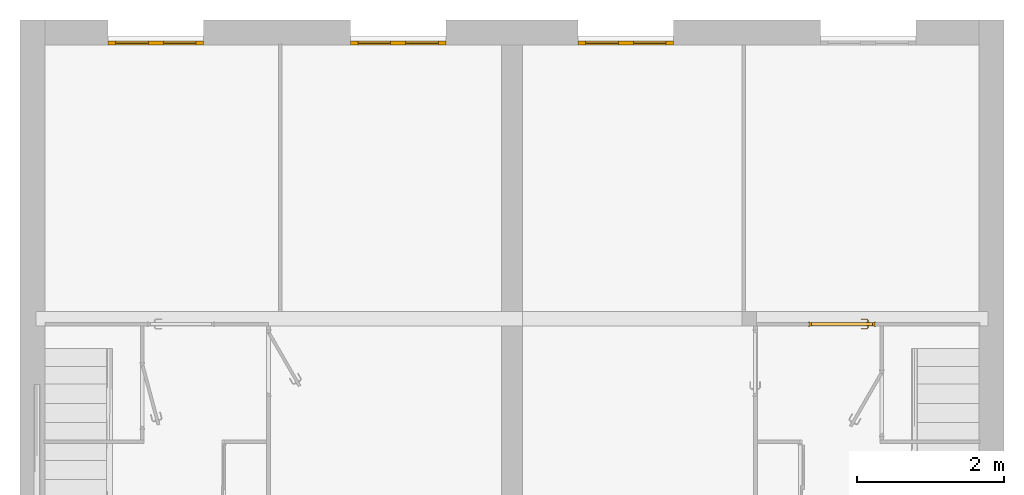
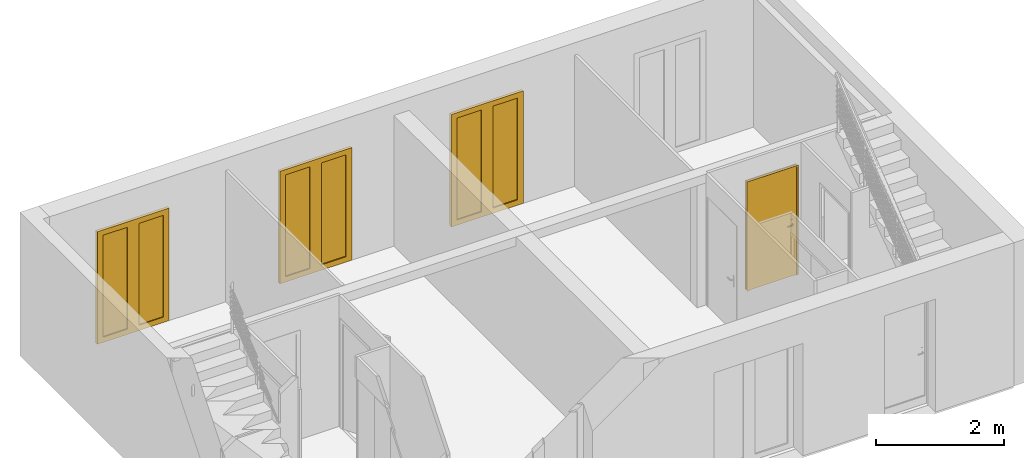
# One storey, part 12 of 13: 4 doors.
"""IFC2X3 building model written with IfcOpenShell, lengths in millimetres."""

from ifc_helpers import new_model, entity, si_unit, converted_unit, direction, frame, origin, origin_with_axes, place, context, project, spatial, faceted_brep, element, save


model = new_model("IFC2X3")

# Units and contexts
model_context = context("Model", 3, precision=1e-05, world=origin(), true_north=direction((0.0, 1.0, 0.0)))
ifc_project = project(units=[si_unit("LENGTHUNIT", "METRE", prefix="MILLI"), si_unit("AREAUNIT", "SQUARE_METRE"), si_unit("VOLUMEUNIT", "CUBIC_METRE"), converted_unit("PLANEANGLEUNIT", "DEGREE", entity("IfcPlaneAngleMeasure", 0.01745), si_unit("PLANEANGLEUNIT", "RADIAN"), dimensions=[0, 0, 0, 0, 0, 0, 0]), si_unit("SOLIDANGLEUNIT", "STERADIAN"), si_unit("MASSUNIT", "GRAM"), si_unit("TIMEUNIT", "SECOND"), si_unit("THERMODYNAMICTEMPERATUREUNIT", "DEGREE_CELSIUS"), si_unit("LUMINOUSINTENSITYUNIT", "LUMEN")], contexts=[model_context])

# Site, building, storey
placement = place(None, origin_with_axes())
site_placement = place(placement, frame((11636.08881703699, 2815.7442167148, 4.768371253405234e-06), z_axis=(0.0, 0.0, 1.0), x_axis=(1.0, 0.0, 0.0)))
site = spatial("IfcSite", under=ifc_project, at=site_placement, Name="Surface", CompositionType="ELEMENT")
building_placement = place(placement, origin_with_axes())
building = spatial("IfcBuilding", under=site, at=building_placement, Name="Default Building", CompositionType="ELEMENT")
storey_placement = place(building_placement, origin_with_axes())
storey = spatial("IfcBuildingStorey", under=building, at=storey_placement, Name="Rez de chaussée", CompositionType="ELEMENT", Elevation=0.0)

# Doors
door_1_placement = place(storey_placement, frame((11636.08881703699, 2815.7442167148, 4.768371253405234e-06), z_axis=(0.0, 0.0, 1.0), x_axis=(1.0, 0.0, 0.0)))
element("IfcDoor", 1, at=door_1_placement, inside=storey, Name="IfcDoor - Int. Simple:PP (0.83m x 2.04m)", context=model_context, shape_type="Brep", body=[
    faceted_brep([(-6.088816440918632, 1569.255782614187, 4.291534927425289e-05), (23.91118475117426, 1564.255783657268, 4.291534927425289e-05), (-6.088816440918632, 1564.255783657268, 4.291534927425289e-05), (23.91118475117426, 1569.255782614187, 4.291534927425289e-05), (-876.0888212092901, 1569.255782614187, 4.291534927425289e-05), (-906.088822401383, 1564.255783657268, 4.291534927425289e-05), (-906.088822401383, 1569.255782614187, 4.291534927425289e-05), (-876.0888212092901, 1564.255783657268, 4.291534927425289e-05), (-6.088816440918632, 1569.255782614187, 2059.99998569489), (-876.0888212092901, 1564.255783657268, 2059.99998569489), (-876.0888212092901, 1569.255782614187, 2059.99998569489), (-6.088816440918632, 1564.255783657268, 2059.99998569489), (23.91118475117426, 1564.255783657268, 2089.999957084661), (-906.088822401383, 1569.255782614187, 2089.999957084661), (-906.088822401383, 1564.255783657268, 2089.999957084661), (23.91118475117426, 1569.255782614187, 2089.999957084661), (-6.088816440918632, 1514.25578291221, 2059.99998569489), (-876.0888212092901, 1509.255783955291, 2059.99998569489), (-876.0888212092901, 1514.25578291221, 2059.99998569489), (-6.088816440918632, 1509.255783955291, 2059.99998569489), (23.91118475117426, 1509.255783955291, 2089.999957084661), (-906.088822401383, 1514.25578291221, 2089.999957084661), (-906.088822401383, 1509.255783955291, 2089.999957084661), (23.91118475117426, 1514.25578291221, 2089.999957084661), (-906.088822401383, 1514.25578291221, 4.291534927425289e-05), (-906.088822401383, 1509.255783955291, 4.291534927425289e-05), (-876.0888212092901, 1509.255783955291, 4.291534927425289e-05), (-876.0888212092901, 1514.25578291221, 4.291534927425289e-05), (-6.088816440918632, 1514.25578291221, 4.291534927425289e-05), (-6.088816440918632, 1509.255783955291, 4.291534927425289e-05), (23.91118475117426, 1509.255783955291, 4.291534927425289e-05), (23.91118475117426, 1514.25578291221, 4.291534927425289e-05), (-26.08882716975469, 1564.255783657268, 2040.000004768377), (-856.0888104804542, 1524.255783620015, 2040.000004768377), (-856.0888104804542, 1564.255783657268, 2040.000004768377), (-26.08882716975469, 1524.255783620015, 2040.000004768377), (-41.08881286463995, 1524.255783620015, 2025.000019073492), (-841.0888247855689, 1514.25578291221, 2025.000019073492), (-841.0888247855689, 1524.255783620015, 2025.000019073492), (-41.08881286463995, 1514.25578291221, 2025.000019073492), (8.911169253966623, 1514.25578291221, 2074.999971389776), (-891.0888069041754, 1564.255783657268, 2074.999971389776), (-891.0888069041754, 1514.25578291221, 2074.999971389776), (8.911169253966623, 1564.255783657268, 2074.999971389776), (-856.0888104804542, 1524.255783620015, 4.291534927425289e-05), (-856.0888104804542, 1564.255783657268, 4.291534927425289e-05), (-841.0888247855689, 1514.25578291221, 4.291534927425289e-05), (-841.0888247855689, 1524.255783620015, 4.291534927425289e-05), (-891.0888069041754, 1514.25578291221, 4.291534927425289e-05), (-891.0888069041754, 1564.255783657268, 4.291534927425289e-05), (-26.08882716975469, 1564.255783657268, 4.291534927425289e-05), (8.911169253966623, 1564.255783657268, 4.291534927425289e-05), (-26.08882716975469, 1524.255783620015, 4.291534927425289e-05), (-41.08881286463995, 1524.255783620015, 4.291534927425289e-05), (-41.08881286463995, 1514.25578291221, 4.291534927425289e-05), (8.911169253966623, 1514.25578291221, 4.291534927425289e-05), (-26.08882716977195, 1524.255783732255, 2039.999980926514), (-26.08882716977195, 1564.255782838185, 1.907348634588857e-05), (-26.08882716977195, 1564.255782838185, 2039.999980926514), (-26.08882716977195, 1524.255783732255, 1.907348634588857e-05), (-856.0888104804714, 1564.255782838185, 1.907348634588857e-05), (-856.0888104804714, 1524.255783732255, 1.907348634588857e-05), (-856.0888104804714, 1564.255782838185, 2039.999980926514), (-856.0888104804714, 1524.255783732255, 2039.999980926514), (-100.2499128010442, 1477.260002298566, 992.2195583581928), (-144.0311635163, 1479.285301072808, 992.1213131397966), (-101.9277258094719, 1481.31059239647, 992.2195583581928), (-138.5340227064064, 1473.285296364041, 992.99999922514), (-186.1346012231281, 1481.31059239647, 992.2195583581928), (-144.854339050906, 1485.285298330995, 992.99999922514), (-186.1346012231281, 1477.260002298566, 992.2195583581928), (-186.1346012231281, 1485.285298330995, 992.99999922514), (-103.5741010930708, 1485.285298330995, 992.99999922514), (-98.60353751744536, 1473.285296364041, 992.99999922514), (-186.1346012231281, 1473.285296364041, 992.99999922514), (-138.5340245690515, 1473.285296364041, 1007.000001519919), (-186.1346012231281, 1473.285296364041, 1007.000001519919), (-98.60353751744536, 1473.285296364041, 1007.000001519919), (-186.1346012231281, 1477.260002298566, 1007.780442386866), (-144.0311635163, 1479.285301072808, 1007.878685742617), (-186.1346012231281, 1481.31059239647, 1007.780442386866), (-101.9277258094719, 1481.31059239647, 1007.780442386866), (-144.854352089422, 1485.285298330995, 1007.000001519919), (-100.2499128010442, 1477.260002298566, 1007.780442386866), (-186.1346012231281, 1485.285298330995, 1007.000001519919), (-103.5741010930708, 1485.285298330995, 1007.000001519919), (-92.08882062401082, 1496.770576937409, 992.99999922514), (-88.11411841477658, 1495.124203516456, 992.2195583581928), (-84.06352086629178, 1493.446392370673, 992.2195583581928), (-80.08881865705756, 1491.800015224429, 992.99999922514), (-80.08881865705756, 1491.800015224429, 1007.000001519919), (-84.06352086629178, 1493.446392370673, 1007.780442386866), (-88.11411841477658, 1495.124203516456, 1007.780442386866), (-92.08882062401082, 1496.770576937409, 1007.000001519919), (-92.08882062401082, 1519.255782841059, 992.99999922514), (-88.11411841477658, 1519.255782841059, 992.2195583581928), (-84.06352086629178, 1519.255782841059, 992.2195583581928), (-80.08881865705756, 1519.255782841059, 992.99999922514), (-80.08881865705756, 1519.255782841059, 1007.000001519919), (-84.06352086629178, 1519.255782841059, 1007.780442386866), (-88.11411841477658, 1519.255782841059, 1007.780442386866), (-92.08882062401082, 1519.255782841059, 1007.000001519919), (-186.1074587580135, 1615.283945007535, 1007.000001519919), (-138.3965194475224, 1615.283945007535, 992.99999922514), (-186.1074587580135, 1615.283945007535, 992.99999922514), (-98.46602960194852, 1615.283945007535, 992.99999922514), (-98.46602960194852, 1615.283945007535, 1007.000001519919), (-186.1074587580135, 1611.309239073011, 992.2195583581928), (-143.9488383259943, 1609.283947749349, 992.1213131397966), (-186.1074587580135, 1607.258648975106, 992.2195583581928), (-101.7902160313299, 1607.258648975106, 992.2195583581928), (-144.7720250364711, 1603.283943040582, 992.99999922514), (-100.1124048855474, 1611.309239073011, 992.2195583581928), (-186.1074587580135, 1603.283943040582, 992.99999922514), (-103.4365913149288, 1603.283943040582, 992.99999922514), (-144.7720250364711, 1603.283943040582, 1007.000001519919), (-103.4365913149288, 1603.283943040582, 1007.000001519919), (-186.1074587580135, 1603.283943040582, 1007.000001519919), (-100.1124048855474, 1611.309239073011, 1007.780442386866), (-143.9488383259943, 1609.283940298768, 1007.878685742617), (-101.7902160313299, 1607.258648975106, 1007.780442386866), (-138.3965157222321, 1615.283945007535, 1007.000001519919), (-186.1074587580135, 1607.258648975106, 1007.780442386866), (-186.1074587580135, 1611.309239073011, 1007.780442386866), (-80.08881865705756, 1596.906734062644, 1007.000001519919), (-80.08881865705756, 1596.906734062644, 992.99999922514), (-84.06352086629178, 1595.26036064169, 992.2195583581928), (-88.11411841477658, 1593.582545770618, 992.2195583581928), (-92.08882062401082, 1591.936172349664, 992.99999922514), (-92.08882062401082, 1591.936172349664, 1007.000001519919), (-88.11411841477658, 1593.582545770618, 1007.780442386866), (-84.06352086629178, 1595.26036064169, 1007.780442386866), (-80.08881865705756, 1569.255783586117, 1007.000001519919), (-80.08881865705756, 1569.255783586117, 992.99999922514), (-84.06352086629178, 1569.255783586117, 992.2195583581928), (-88.11411841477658, 1569.255783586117, 992.2195583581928), (-92.08882062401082, 1569.255783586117, 992.99999922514), (-92.08882062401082, 1569.255783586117, 1007.000001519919), (-88.11411841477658, 1569.255783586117, 1007.780442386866), (-84.06352086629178, 1569.255783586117, 1007.780442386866), (-106.0888191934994, 1524.255783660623, 1079.999996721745), (-106.0888191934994, 1519.255782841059, 870.0000032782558), (-106.0888191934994, 1519.255782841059, 1079.999996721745), (-106.0888191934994, 1524.255783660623, 870.0000032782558), (-96.44158019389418, 1519.255782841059, 866.0039812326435), (-96.44158019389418, 1524.255783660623, 866.0039812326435), (-86.08881964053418, 1519.255782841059, 864.6410167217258), (-86.08881964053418, 1524.255783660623, 864.6410167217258), (-75.73605536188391, 1524.255783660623, 866.0039812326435), (-75.73605536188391, 1519.255782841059, 866.0039812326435), (-66.08882008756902, 1519.255782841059, 870.0000032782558), (-66.08882008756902, 1524.255783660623, 870.0000032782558), (-66.08882008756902, 1519.255782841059, 1079.999996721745), (-66.08882008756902, 1524.255783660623, 1079.999996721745), (-75.73605536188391, 1519.255782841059, 1083.996018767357), (-75.73605536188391, 1524.255783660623, 1083.996018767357), (-86.08881964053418, 1519.255782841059, 1085.358983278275), (-86.08881964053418, 1524.255783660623, 1085.358983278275), (-96.44158019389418, 1524.255783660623, 1083.996018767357), (-96.44158019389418, 1519.255782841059, 1083.996018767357), (-66.08882008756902, 1569.255783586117, 870.0000032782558), (-66.08882008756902, 1564.255782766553, 1079.999996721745), (-66.08882008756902, 1564.255782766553, 870.0000032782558), (-66.08882008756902, 1569.255783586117, 1079.999996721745), (-75.73605536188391, 1564.255782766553, 1083.996018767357), (-75.73605536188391, 1569.255783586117, 1083.996018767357), (-86.08881964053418, 1564.255782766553, 1085.358983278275), (-86.08881964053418, 1569.255783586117, 1085.358983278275), (-96.44158019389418, 1569.255783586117, 1083.996018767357), (-96.44158019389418, 1564.255782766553, 1083.996018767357), (-106.0888191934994, 1564.255782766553, 1079.999996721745), (-106.0888191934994, 1569.255783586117, 1079.999996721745), (-106.0888191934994, 1564.255782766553, 870.0000032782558), (-106.0888191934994, 1569.255783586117, 870.0000032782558), (-96.44158019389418, 1564.255782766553, 866.0039812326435), (-96.44158019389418, 1569.255783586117, 866.0039812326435), (-86.08881964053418, 1564.255782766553, 864.6410167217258), (-86.08881964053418, 1569.255783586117, 864.6410167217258), (-75.73605536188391, 1569.255783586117, 866.0039812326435), (-75.73605536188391, 1564.255782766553, 866.0039812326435)], [[[0, 1, 2]], [[0, 3, 1]], [[4, 5, 6]], [[4, 7, 5]], [[8, 9, 10]], [[8, 11, 9]], [[12, 13, 14]], [[12, 15, 13]], [[14, 6, 5]], [[14, 13, 6]], [[10, 7, 4]], [[10, 9, 7]], [[0, 11, 8]], [[0, 2, 11]], [[12, 9, 11]], [[14, 9, 12]], [[14, 7, 9]], [[7, 14, 5]], [[11, 1, 12]], [[1, 11, 2]], [[1, 15, 12]], [[1, 3, 15]], [[13, 10, 6]], [[13, 8, 10]], [[15, 8, 13]], [[15, 0, 8]], [[0, 15, 3]], [[6, 10, 4]], [[16, 17, 18]], [[16, 19, 17]], [[20, 21, 22]], [[20, 23, 21]], [[22, 24, 25]], [[22, 21, 24]], [[18, 26, 27]], [[18, 17, 26]], [[27, 25, 24]], [[27, 26, 25]], [[28, 19, 16]], [[28, 29, 19]], [[20, 17, 19]], [[22, 17, 20]], [[22, 26, 17]], [[26, 22, 25]], [[19, 30, 20]], [[30, 19, 29]], [[30, 23, 20]], [[30, 31, 23]], [[21, 18, 24]], [[21, 16, 18]], [[23, 16, 21]], [[23, 28, 16]], [[28, 23, 31]], [[24, 18, 27]], [[28, 30, 29]], [[28, 31, 30]], [[32, 33, 34]], [[32, 35, 33]], [[36, 37, 38]], [[36, 39, 37]], [[40, 41, 42]], [[40, 43, 41]], [[34, 44, 45]], [[34, 33, 44]], [[38, 46, 47]], [[38, 37, 46]], [[46, 44, 47]], [[48, 44, 46]], [[48, 45, 44]], [[45, 48, 49]], [[42, 49, 48]], [[42, 41, 49]], [[41, 34, 49]], [[41, 32, 34]], [[43, 32, 41]], [[43, 50, 32]], [[50, 43, 51]], [[49, 34, 45]], [[50, 35, 32]], [[50, 52, 35]], [[33, 38, 44]], [[33, 36, 38]], [[35, 36, 33]], [[35, 53, 36]], [[53, 35, 52]], [[44, 38, 47]], [[53, 39, 36]], [[53, 54, 39]], [[40, 54, 55]], [[40, 39, 54]], [[40, 37, 39]], [[42, 37, 40]], [[42, 46, 37]], [[46, 42, 48]], [[55, 43, 40]], [[55, 51, 43]], [[53, 55, 54]], [[52, 55, 53]], [[50, 55, 52]], [[55, 50, 51]], [[56, 57, 58]], [[56, 59, 57]], [[59, 60, 57]], [[59, 61, 60]], [[61, 62, 60]], [[61, 63, 62]], [[63, 58, 62]], [[63, 56, 58]], [[58, 60, 62]], [[58, 57, 60]], [[56, 61, 59]], [[56, 63, 61]], [[64, 65, 66]], [[64, 67, 65]], [[68, 69, 65]], [[70, 68, 65]], [[69, 68, 71]], [[72, 66, 69]], [[65, 69, 66]], [[64, 73, 67]], [[74, 70, 67]], [[67, 70, 65]], [[74, 75, 76]], [[67, 75, 74]], [[73, 75, 67]], [[75, 73, 77]], [[78, 79, 80]], [[81, 82, 79]], [[83, 81, 79]], [[75, 83, 79]], [[77, 83, 75]], [[76, 75, 78]], [[82, 84, 80]], [[85, 82, 81]], [[75, 79, 78]], [[82, 80, 79]], [[84, 72, 71]], [[82, 72, 84]], [[72, 82, 85]], [[76, 70, 74]], [[78, 70, 76]], [[78, 68, 70]], [[80, 68, 78]], [[80, 71, 68]], [[71, 80, 84]], [[66, 86, 87]], [[66, 72, 86]], [[73, 88, 89]], [[73, 64, 88]], [[89, 77, 73]], [[89, 90, 77]], [[83, 90, 91]], [[83, 77, 90]], [[85, 92, 93]], [[85, 81, 92]], [[93, 72, 85]], [[93, 86, 72]], [[87, 94, 95]], [[87, 86, 94]], [[87, 64, 66]], [[87, 88, 64]], [[95, 88, 87]], [[88, 95, 96]], [[89, 96, 97]], [[89, 88, 96]], [[97, 90, 89]], [[97, 98, 90]], [[91, 98, 99]], [[91, 90, 98]], [[83, 92, 81]], [[91, 92, 83]], [[91, 100, 92]], [[100, 91, 99]], [[93, 100, 101]], [[93, 92, 100]], [[101, 86, 93]], [[101, 94, 86]], [[96, 98, 97]], [[96, 99, 98]], [[95, 99, 96]], [[95, 100, 99]], [[94, 100, 95]], [[100, 94, 101]], [[102, 103, 104]], [[102, 105, 103]], [[102, 106, 105]], [[107, 108, 109]], [[110, 111, 108]], [[112, 110, 108]], [[103, 112, 108]], [[105, 112, 103]], [[104, 103, 107]], [[111, 113, 109]], [[114, 111, 110]], [[103, 108, 107]], [[111, 109, 108]], [[115, 114, 116]], [[117, 114, 115]], [[117, 111, 114]], [[111, 117, 113]], [[118, 119, 120]], [[118, 121, 119]], [[122, 115, 119]], [[123, 122, 119]], [[115, 122, 117]], [[116, 120, 115]], [[119, 115, 120]], [[118, 106, 121]], [[102, 123, 121]], [[121, 123, 119]], [[117, 109, 113]], [[122, 109, 117]], [[122, 107, 109]], [[123, 107, 122]], [[123, 104, 107]], [[104, 123, 102]], [[124, 105, 106]], [[124, 125, 105]], [[112, 125, 126]], [[112, 105, 125]], [[114, 127, 128]], [[114, 110, 127]], [[128, 116, 114]], [[128, 129, 116]], [[120, 129, 130]], [[120, 116, 129]], [[106, 131, 124]], [[106, 118, 131]], [[132, 125, 124]], [[132, 133, 125]], [[126, 133, 134]], [[126, 125, 133]], [[112, 127, 110]], [[126, 127, 112]], [[126, 135, 127]], [[135, 126, 134]], [[128, 135, 136]], [[128, 127, 135]], [[136, 129, 128]], [[136, 137, 129]], [[130, 137, 138]], [[130, 129, 137]], [[130, 118, 120]], [[130, 131, 118]], [[138, 131, 130]], [[131, 138, 139]], [[124, 139, 132]], [[124, 131, 139]], [[136, 138, 137]], [[135, 138, 136]], [[135, 139, 138]], [[134, 139, 135]], [[134, 132, 139]], [[132, 134, 133]], [[140, 141, 142]], [[140, 143, 141]], [[144, 143, 145]], [[144, 141, 143]], [[146, 145, 147]], [[146, 144, 145]], [[148, 146, 147]], [[148, 149, 146]], [[150, 148, 151]], [[150, 149, 148]], [[151, 152, 150]], [[151, 153, 152]], [[154, 153, 155]], [[154, 152, 153]], [[156, 155, 157]], [[156, 154, 155]], [[158, 156, 157]], [[158, 159, 156]], [[142, 158, 140]], [[142, 159, 158]], [[146, 141, 144]], [[149, 141, 146]], [[150, 141, 149]], [[150, 142, 141]], [[150, 159, 142]], [[150, 156, 159]], [[150, 154, 156]], [[154, 150, 152]], [[157, 140, 158]], [[155, 140, 157]], [[153, 140, 155]], [[153, 143, 140]], [[153, 145, 143]], [[153, 147, 145]], [[153, 148, 147]], [[148, 153, 151]], [[160, 161, 162]], [[160, 163, 161]], [[164, 163, 165]], [[164, 161, 163]], [[166, 165, 167]], [[166, 164, 165]], [[168, 166, 167]], [[168, 169, 166]], [[170, 168, 171]], [[170, 169, 168]], [[171, 172, 170]], [[171, 173, 172]], [[174, 173, 175]], [[174, 172, 173]], [[176, 175, 177]], [[176, 174, 175]], [[178, 176, 177]], [[178, 179, 176]], [[162, 178, 160]], [[162, 179, 178]], [[176, 172, 174]], [[179, 172, 176]], [[162, 172, 179]], [[162, 170, 172]], [[162, 169, 170]], [[162, 166, 169]], [[162, 164, 166]], [[164, 162, 161]], [[167, 171, 168]], [[165, 171, 167]], [[163, 171, 165]], [[163, 173, 171]], [[163, 175, 173]], [[163, 177, 175]], [[163, 178, 177]], [[178, 163, 160]]]),
])
door_2_placement = place(storey_placement, frame((11636.08881703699, 2815.7442167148, 4.768371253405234e-06), z_axis=(0.0, 0.0, 1.0), x_axis=(1.0, 0.0, 0.0)))
element("IfcDoor", 2, at=door_2_placement, inside=storey, Name="IfcDoor - Double-Glass 1_no trim:PF 1.30 x 2.15", context=model_context, shape_type="Brep", body=[
    faceted_brep([(-9887.688817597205, 5395.055782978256, 2048.399996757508), (-9684.488820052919, 5395.055782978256, 101.6000032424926), (-9887.688817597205, 5395.055782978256, 101.6000032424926), (-9684.488820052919, 5395.055782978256, 2048.399996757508), (-10436.0887949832, 5395.055782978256, -4.768371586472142e-05), (-9136.08884266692, 5395.055782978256, -4.768371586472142e-05), (-10334.48880366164, 5395.055782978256, 101.6000032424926), (-10334.48880366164, 5395.055782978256, 2048.399996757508), (-10436.0887949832, 5395.055782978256, 2150.000047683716), (-9237.688833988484, 5395.055782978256, 101.6000032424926), (-9237.688833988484, 5395.055782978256, 2048.399996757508), (-9136.08884266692, 5395.055782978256, 2150.000047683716), (-9684.488820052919, 5344.255783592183, 2048.399996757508), (-9887.688817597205, 5344.255783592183, 101.6000032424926), (-9684.488820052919, 5344.255783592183, 101.6000032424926), (-9887.688817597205, 5344.255783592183, 2048.399996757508), (-9136.08884266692, 5344.255783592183, -4.768371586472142e-05), (-9237.688833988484, 5344.255783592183, 101.6000032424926), (-10436.0887949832, 5344.255783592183, -4.768371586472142e-05), (-9237.688833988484, 5344.255783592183, 2048.399996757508), (-9136.08884266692, 5344.255783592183, 2150.000047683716), (-10334.48880366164, 5344.255783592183, 2048.399996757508), (-10334.48880366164, 5344.255783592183, 101.6000032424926), (-10436.0887949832, 5344.255783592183, 2150.000047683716), (-9237.688833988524, 5369.655783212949, 2048.399996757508), (-9684.488820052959, 5362.512033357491, 2048.399996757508), (-9237.688833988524, 5362.512033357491, 2048.399996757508), (-9684.488820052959, 5369.655783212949, 2048.399996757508), (-9237.688833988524, 5362.512033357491, 101.6000032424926), (-9684.488820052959, 5369.655783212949, 101.6000032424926), (-9237.688833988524, 5369.655783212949, 101.6000032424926), (-9684.488820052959, 5362.512033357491, 101.6000032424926), (-9887.688817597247, 5369.655783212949, 2048.399996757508), (-10334.48880366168, 5362.512033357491, 2048.399996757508), (-9887.688817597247, 5362.512033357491, 2048.399996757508), (-10334.48880366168, 5369.655783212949, 2048.399996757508), (-9887.688817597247, 5362.512033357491, 101.6000032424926), (-10334.48880366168, 5369.655783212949, 101.6000032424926), (-9887.688817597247, 5369.655783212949, 101.6000032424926), (-10334.48880366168, 5362.512033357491, 101.6000032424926)], [[[0, 1, 2]], [[0, 3, 1]], [[4, 2, 5]], [[4, 6, 2]], [[4, 7, 6]], [[7, 8, 3]], [[8, 7, 4]], [[9, 5, 2]], [[10, 5, 9]], [[8, 10, 3]], [[10, 11, 5]], [[11, 10, 8]], [[12, 13, 14]], [[13, 12, 15]], [[16, 17, 18]], [[16, 19, 17]], [[19, 20, 21]], [[20, 19, 16]], [[14, 18, 17]], [[13, 18, 14]], [[22, 18, 13]], [[21, 18, 22]], [[21, 23, 18]], [[23, 21, 20]], [[3, 19, 12]], [[3, 10, 19]], [[1, 12, 14]], [[1, 3, 12]], [[9, 14, 17]], [[9, 1, 14]], [[10, 17, 19]], [[10, 9, 17]], [[7, 15, 21]], [[7, 0, 15]], [[6, 21, 22]], [[6, 7, 21]], [[2, 22, 13]], [[2, 6, 22]], [[0, 13, 15]], [[0, 2, 13]], [[5, 20, 16]], [[5, 11, 20]], [[4, 16, 18]], [[4, 5, 16]], [[8, 18, 23]], [[8, 4, 18]], [[11, 23, 20]], [[11, 8, 23]], [[24, 25, 26]], [[24, 27, 25]], [[28, 29, 30]], [[28, 31, 29]], [[27, 30, 29]], [[27, 24, 30]], [[25, 29, 31]], [[25, 27, 29]], [[26, 31, 28]], [[26, 25, 31]], [[24, 28, 30]], [[24, 26, 28]], [[32, 33, 34]], [[32, 35, 33]], [[36, 37, 38]], [[36, 39, 37]], [[35, 38, 37]], [[35, 32, 38]], [[33, 37, 39]], [[33, 35, 37]], [[34, 39, 36]], [[34, 33, 39]], [[32, 36, 38]], [[32, 34, 36]]]),
])
door_3_placement = place(storey_placement, frame((11636.08881703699, 2815.7442167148, 4.768371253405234e-06), z_axis=(0.0, 0.0, 1.0), x_axis=(1.0, 0.0, 0.0)))
element("IfcDoor", 3, at=door_3_placement, inside=storey, Name="IfcDoor - Double-Glass 1_no trim:PF 1.30 x 2.15", context=model_context, shape_type="Brep", body=[
    faceted_brep([(-3284.488820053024, 5344.255783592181, 2048.399996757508), (-3487.688817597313, 5344.255783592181, 101.6000032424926), (-3284.488820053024, 5344.255783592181, 101.6000032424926), (-3487.688817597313, 5344.255783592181, 2048.399996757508), (-2736.088842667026, 5344.255783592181, -4.768371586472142e-05), (-4036.08879498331, 5344.255783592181, -4.768371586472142e-05), (-2837.68883398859, 5344.255783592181, 101.6000032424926), (-2837.68883398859, 5344.255783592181, 2048.399996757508), (-2736.088842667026, 5344.255783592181, 2150.000047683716), (-3934.488803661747, 5344.255783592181, 101.6000032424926), (-3934.488803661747, 5344.255783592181, 2048.399996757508), (-4036.08879498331, 5344.255783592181, 2150.000047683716), (-3487.688817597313, 5395.055782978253, 2048.399996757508), (-3284.488820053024, 5395.055782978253, 101.6000032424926), (-3487.688817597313, 5395.055782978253, 101.6000032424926), (-3284.488820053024, 5395.055782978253, 2048.399996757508), (-4036.08879498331, 5395.055782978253, -4.768371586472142e-05), (-3934.488803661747, 5395.055782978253, 101.6000032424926), (-2736.088842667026, 5395.055782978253, -4.768371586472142e-05), (-3934.488803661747, 5395.055782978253, 2048.399996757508), (-4036.08879498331, 5395.055782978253, 2150.000047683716), (-2837.68883398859, 5395.055782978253, 2048.399996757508), (-2837.68883398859, 5395.055782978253, 101.6000032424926), (-2736.088842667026, 5395.055782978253, 2150.000047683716), (-3284.488820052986, 5369.655783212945, 2048.399996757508), (-2837.688833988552, 5362.512033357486, 2048.399996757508), (-2837.688833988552, 5369.655783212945, 2048.399996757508), (-3284.488820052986, 5362.512033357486, 2048.399996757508), (-2837.688833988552, 5369.655783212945, 101.6000032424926), (-3284.488820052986, 5362.512033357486, 101.6000032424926), (-3284.488820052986, 5369.655783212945, 101.6000032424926), (-2837.688833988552, 5362.512033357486, 101.6000032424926), (-3934.488803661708, 5369.655783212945, 2048.399996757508), (-3487.688817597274, 5362.512033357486, 2048.399996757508), (-3487.688817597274, 5369.655783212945, 2048.399996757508), (-3934.488803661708, 5362.512033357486, 2048.399996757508), (-3487.688817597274, 5369.655783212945, 101.6000032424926), (-3934.488803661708, 5362.512033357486, 101.6000032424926), (-3934.488803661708, 5369.655783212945, 101.6000032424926), (-3487.688817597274, 5362.512033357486, 101.6000032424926)], [[[0, 1, 2]], [[0, 3, 1]], [[4, 2, 5]], [[4, 6, 2]], [[4, 7, 6]], [[7, 8, 3]], [[8, 7, 4]], [[9, 5, 2]], [[10, 5, 9]], [[8, 10, 3]], [[10, 11, 5]], [[11, 10, 8]], [[12, 13, 14]], [[13, 12, 15]], [[16, 17, 18]], [[16, 19, 17]], [[19, 20, 21]], [[20, 19, 16]], [[14, 18, 17]], [[13, 18, 14]], [[22, 18, 13]], [[21, 18, 22]], [[21, 23, 18]], [[23, 21, 20]], [[3, 19, 12]], [[3, 10, 19]], [[1, 12, 14]], [[1, 3, 12]], [[9, 14, 17]], [[9, 1, 14]], [[10, 17, 19]], [[10, 9, 17]], [[7, 15, 21]], [[7, 0, 15]], [[6, 21, 22]], [[6, 7, 21]], [[2, 22, 13]], [[2, 6, 22]], [[0, 13, 15]], [[0, 2, 13]], [[5, 20, 16]], [[5, 11, 20]], [[4, 16, 18]], [[4, 5, 16]], [[8, 18, 23]], [[8, 4, 18]], [[11, 23, 20]], [[11, 8, 23]], [[24, 25, 26]], [[24, 27, 25]], [[28, 29, 30]], [[28, 31, 29]], [[27, 30, 29]], [[27, 24, 30]], [[25, 29, 31]], [[25, 27, 29]], [[26, 31, 28]], [[26, 25, 31]], [[24, 28, 30]], [[24, 26, 28]], [[32, 33, 34]], [[32, 35, 33]], [[36, 37, 38]], [[36, 39, 37]], [[35, 38, 37]], [[35, 32, 38]], [[33, 37, 39]], [[33, 35, 37]], [[34, 39, 36]], [[34, 33, 39]], [[32, 36, 38]], [[32, 34, 36]]]),
])
door_4_placement = place(storey_placement, frame((11636.08881703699, 2815.7442167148, 4.768371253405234e-06), z_axis=(0.0, 0.0, 1.0), x_axis=(1.0, 0.0, 0.0)))
element("IfcDoor", 4, at=door_4_placement, inside=storey, Name="IfcDoor - Double-Glass 1_no trim:PF 1.30 x 2.15", context=model_context, shape_type="Brep", body=[
    faceted_brep([(-6384.488820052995, 5344.255783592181, 2048.399996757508), (-6587.688817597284, 5344.255783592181, 101.6000032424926), (-6384.488820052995, 5344.255783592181, 101.6000032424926), (-6587.688817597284, 5344.255783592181, 2048.399996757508), (-5836.088842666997, 5344.255783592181, -4.768371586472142e-05), (-7136.088794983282, 5344.255783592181, -4.768371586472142e-05), (-5937.688833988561, 5344.255783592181, 101.6000032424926), (-5937.688833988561, 5344.255783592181, 2048.399996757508), (-5836.088842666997, 5344.255783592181, 2150.000047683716), (-7034.488803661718, 5344.255783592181, 101.6000032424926), (-7034.488803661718, 5344.255783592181, 2048.399996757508), (-7136.088794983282, 5344.255783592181, 2150.000047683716), (-6587.688817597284, 5395.055782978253, 2048.399996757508), (-6384.488820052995, 5395.055782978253, 101.6000032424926), (-6587.688817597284, 5395.055782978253, 101.6000032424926), (-6384.488820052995, 5395.055782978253, 2048.399996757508), (-7136.088794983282, 5395.055782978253, -4.768371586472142e-05), (-7034.488803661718, 5395.055782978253, 101.6000032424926), (-5836.088842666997, 5395.055782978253, -4.768371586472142e-05), (-7034.488803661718, 5395.055782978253, 2048.399996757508), (-7136.088794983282, 5395.055782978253, 2150.000047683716), (-5937.688833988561, 5395.055782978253, 2048.399996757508), (-5937.688833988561, 5395.055782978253, 101.6000032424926), (-5836.088842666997, 5395.055782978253, 2150.000047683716), (-6384.488820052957, 5369.655783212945, 2048.399996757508), (-5937.688833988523, 5362.512033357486, 2048.399996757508), (-5937.688833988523, 5369.655783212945, 2048.399996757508), (-6384.488820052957, 5362.512033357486, 2048.399996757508), (-5937.688833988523, 5369.655783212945, 101.6000032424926), (-6384.488820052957, 5362.512033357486, 101.6000032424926), (-6384.488820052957, 5369.655783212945, 101.6000032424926), (-5937.688833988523, 5362.512033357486, 101.6000032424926), (-7034.488803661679, 5369.655783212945, 2048.399996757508), (-6587.688817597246, 5362.512033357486, 2048.399996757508), (-6587.688817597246, 5369.655783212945, 2048.399996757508), (-7034.488803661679, 5362.512033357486, 2048.399996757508), (-6587.688817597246, 5369.655783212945, 101.6000032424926), (-7034.488803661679, 5362.512033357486, 101.6000032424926), (-7034.488803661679, 5369.655783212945, 101.6000032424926), (-6587.688817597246, 5362.512033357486, 101.6000032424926)], [[[0, 1, 2]], [[0, 3, 1]], [[4, 2, 5]], [[4, 6, 2]], [[4, 7, 6]], [[7, 8, 3]], [[8, 7, 4]], [[9, 5, 2]], [[10, 5, 9]], [[8, 10, 3]], [[10, 11, 5]], [[11, 10, 8]], [[12, 13, 14]], [[13, 12, 15]], [[16, 17, 18]], [[16, 19, 17]], [[19, 20, 21]], [[20, 19, 16]], [[14, 18, 17]], [[13, 18, 14]], [[22, 18, 13]], [[21, 18, 22]], [[21, 23, 18]], [[23, 21, 20]], [[3, 19, 12]], [[3, 10, 19]], [[1, 12, 14]], [[1, 3, 12]], [[9, 14, 17]], [[9, 1, 14]], [[10, 17, 19]], [[10, 9, 17]], [[7, 15, 21]], [[7, 0, 15]], [[6, 21, 22]], [[6, 7, 21]], [[2, 22, 13]], [[2, 6, 22]], [[0, 13, 15]], [[0, 2, 13]], [[5, 20, 16]], [[5, 11, 20]], [[4, 16, 18]], [[4, 5, 16]], [[8, 18, 23]], [[8, 4, 18]], [[11, 23, 20]], [[11, 8, 23]], [[24, 25, 26]], [[24, 27, 25]], [[28, 29, 30]], [[28, 31, 29]], [[27, 30, 29]], [[27, 24, 30]], [[25, 29, 31]], [[25, 27, 29]], [[26, 31, 28]], [[26, 25, 31]], [[24, 28, 30]], [[24, 26, 28]], [[32, 33, 34]], [[32, 35, 33]], [[36, 37, 38]], [[36, 39, 37]], [[35, 38, 37]], [[35, 32, 38]], [[33, 37, 39]], [[33, 35, 37]], [[34, 39, 36]], [[34, 33, 39]], [[32, 36, 38]], [[32, 34, 36]]]),
])

save(model, "model.ifc")
